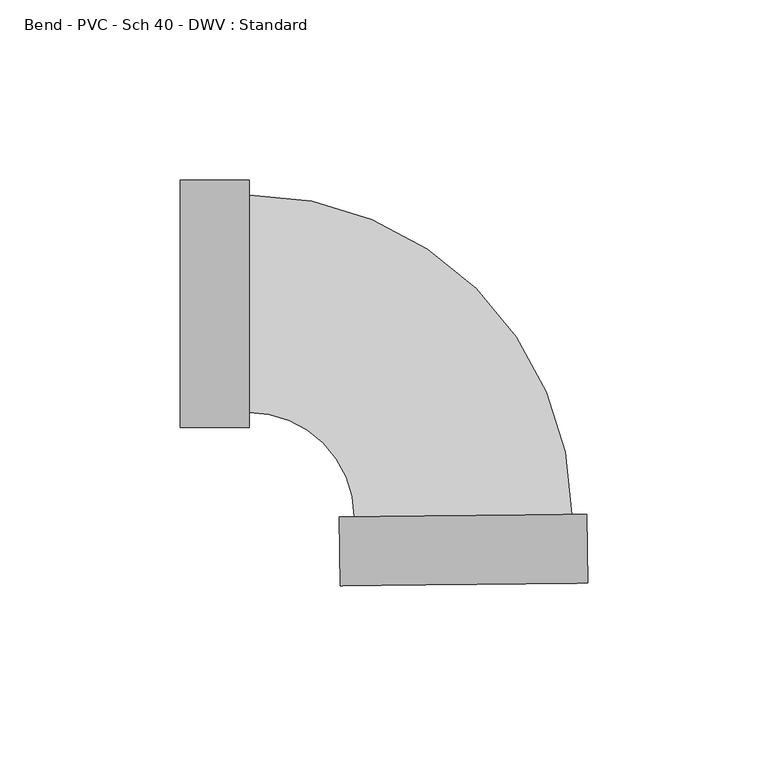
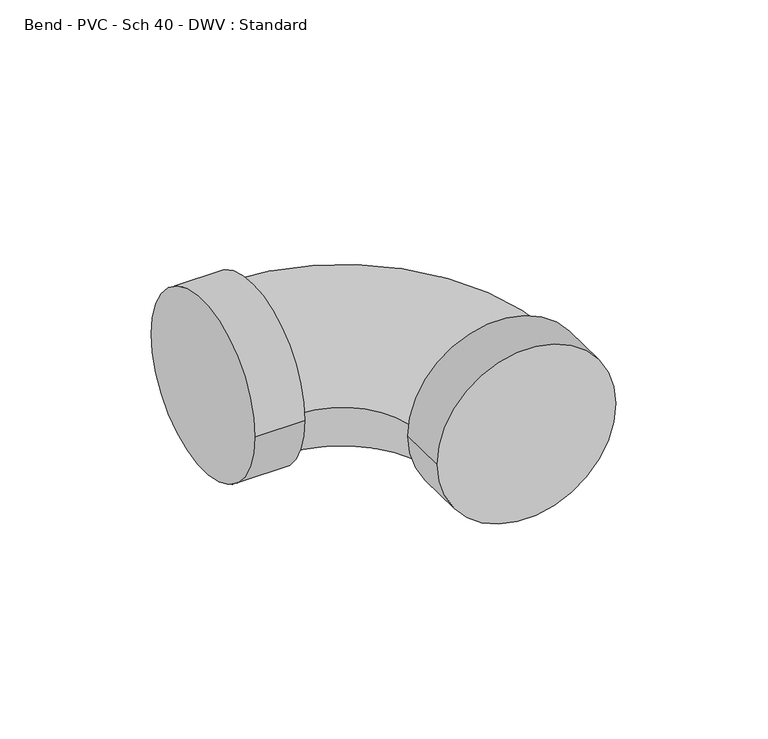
"""IFC4 building model written with IfcOpenShell, lengths in millimetres: pipe fitting geometry, Bend - PVC - Sch 40 - DWV : Standard."""

from ifc_helpers import new_model, si_unit, point, frame, origin, place, context, project, spatial, circle_curve, ellipse_curve, trimmed, source, transform, mapped, element, save
from ifc_brep_helpers import plane_surface, cylinder_surface, revolved_surface, advanced_brep


def bend_pvc_sch_40_dwv_standard_3c7622ae(model_context):
    return source(origin(), model_context, "Body", "AdvancedBrep", [
        advanced_brep(
        [(-77.8002, 34.3154, 0.0), (-77.8002, -34.3154, 0.0), (-58.7502, 34.3154, 0.0), (-58.7502, -34.3154, 0.0), (-58.7502, 30.1625, 0.0), (-58.7502, -30.1625, 0.0), (-29.5489157, -59.0611885, 0.0), (30.7728118, -58.4328372, 0.0), (34.9254865, -58.3895802, 0.0), (-33.7015904, -59.1044455, 0.0), (35.1239132, -77.4385467, 0.0), (-33.5031636, -78.1534121, 0.0)],
        [
            (0, 1, circle_curve(frame((-77.8002, 0.0, 0.0), z_axis=(-1.0, 0.0, 0.0), x_axis=(0.0, -1.0, 0.0)), 34.3154)),
            (1, 0, circle_curve(frame((-77.8002, 0.0, 0.0), z_axis=(-1.0, 0.0, 0.0), x_axis=(0.0, -1.0, 0.0)), 34.3154)),
            (2, 3, circle_curve(frame((-58.7502, 0.0, 0.0), z_axis=(1.0, 0.0, 0.0), x_axis=(0.0, -1.0, 0.0)), 34.3154)),
            (3, 2, circle_curve(frame((-58.7502, 0.0, 0.0), z_axis=(1.0, 0.0, 0.0), x_axis=(0.0, -1.0, 0.0)), 34.3154)),
            (4, 5, circle_curve(frame((-58.7502, 0.0, 0.0), z_axis=(-1.0, 0.0, 0.0), x_axis=(0.0, -1.0, 0.0)), 30.1625)),
            (5, 4, circle_curve(frame((-58.7502, 0.0, 0.0), z_axis=(-1.0, 0.0, 0.0), x_axis=(0.0, -1.0, 0.0)), 30.1625)),
            (1, 3),
            (2, 0),
            (6, 7, circle_curve(frame((0.6119481, -58.7470129, 0.0), z_axis=(-0.010416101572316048, 0.9999457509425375, 0.0), x_axis=(-0.9999457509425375, -0.010416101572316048, 0.0)), 30.1625)),
            (7, 4, circle_curve(frame((-58.7502, -59.3653686, 0.0), z_axis=(0.0, 0.0, 1.0), x_axis=(0.0, 1.0, 0.0)), 89.5278686)),
            (5, 6, circle_curve(frame((-58.7502, -59.3653686, 0.0), z_axis=(0.0, 0.0, -1.0), x_axis=(0.0, 1.0, 0.0)), 29.2028686)),
            (7, 6, circle_curve(frame((0.6119481, -58.7470129, 0.0), z_axis=(-0.010416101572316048, 0.9999457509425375, 0.0), x_axis=(-0.9999457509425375, -0.010416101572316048, 0.0)), 30.1625)),
            (8, 9, circle_curve(frame((0.6119481, -58.7470129, 0.0), z_axis=(-0.010416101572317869, 0.9999457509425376, 0.0), x_axis=(-0.9999457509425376, -0.010416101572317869, 0.0)), 34.3154)),
            (9, 8, circle_curve(frame((0.6119481, -58.7470129, 0.0), z_axis=(-0.010416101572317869, 0.9999457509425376, 0.0), x_axis=(-0.9999457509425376, -0.010416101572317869, 0.0)), 34.3154)),
            (10, 11, circle_curve(frame((0.8103748, -77.7959794, 0.0), z_axis=(0.010416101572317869, -0.9999457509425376, 0.0), x_axis=(-0.9999457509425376, -0.010416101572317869, 0.0)), 34.3154)),
            (11, 10, circle_curve(frame((0.8103748, -77.7959794, 0.0), z_axis=(0.010416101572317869, -0.9999457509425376, 0.0), x_axis=(-0.9999457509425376, -0.010416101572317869, 0.0)), 34.3154)),
            (9, 11),
            (10, 8),
        ],
        [
            plane_surface(frame((-77.8002, 0.0, 0.0), z_axis=(-1.0, 0.0, 0.0), x_axis=(0.0, 0.0, 1.0))),
            plane_surface(frame((-58.7502, 0.0, 0.0), z_axis=(1.0, 0.0, 0.0), x_axis=(0.0, 0.0, 1.0))),
            cylinder_surface(frame((-77.8002, 0.0, 0.0), z_axis=(-1.0, 0.0, 0.0), x_axis=(0.0, -1.0, 0.0)), 34.3154),
            revolved_surface(trimmed(ellipse_curve(frame((-58.7502, 0.0, 0.0), z_axis=(1.0, 0.0, 0.0), x_axis=(0.0, -1.0, 0.0)), 30.1625, 30.1625), [point((-58.7502, 30.1625, 0.0))], [point((-58.7502, -30.1625, 0.0))], True, "CARTESIAN"), (-58.7502, -59.3653686, 0.0), (0.0, 0.0, 1.0)),
            revolved_surface(trimmed(ellipse_curve(frame((-58.7502, 0.0, 0.0), z_axis=(1.0, 0.0, 0.0), x_axis=(0.0, -1.0, 0.0)), 30.1625, 30.1625), [point((-58.7502, -30.1625, 0.0))], [point((-58.7502, 30.1625, 0.0))], True, "CARTESIAN"), (-58.7502, -59.3653686, 0.0), (0.0, 0.0, 1.0)),
            plane_surface(frame((0.6119481, -58.7470129, 0.0), z_axis=(-0.010416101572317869, 0.9999457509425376, 0.0), x_axis=(0.0, 0.0, 1.0))),
            plane_surface(frame((0.8103748, -77.7959794, 0.0), z_axis=(0.010416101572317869, -0.9999457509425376, 0.0), x_axis=(0.0, 0.0, 1.0))),
            cylinder_surface(frame((0.6119481, -58.7470129, 0.0), z_axis=(-0.010416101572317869, 0.9999457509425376, 0.0), x_axis=(-0.9999457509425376, -0.010416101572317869, 0.0)), 34.3154),
        ],
        [
            (0, [[1, 2]]),
            (1, [[3, 4], [5, 6]]),
            (2, [[7, -3, 8, -2]]),
            (2, [[-8, -4, -7, -1]]),
            (3, [[9, 10, -6, 11]]),
            (4, [[-5, -10, 12, -11]]),
            (5, [[13, 14], [-12, -9]]),
            (6, [[15, 16]]),
            (7, [[17, -15, 18, -14]]),
            (7, [[-18, -16, -17, -13]]),
        ],
    ),
    ])


if __name__ == "__main__":
    model = new_model("IFC4")
    model_context = context("Model", 3, world=origin())
    ifc_project = project(units=[si_unit("LENGTHUNIT", "METRE", prefix="MILLI")], contexts=[model_context])
    site = spatial("IfcSite", under=ifc_project)
    building = spatial("IfcBuilding", under=site)
    placement = place(None, origin())
    bend_pvc_sch_40_dwv_standard_shape = bend_pvc_sch_40_dwv_standard_3c7622ae(model_context)
    element("IfcPipeFitting", 1, ObjectType="Bend - PVC - Sch 40 - DWV : Standard", at=placement, inside=building, context=model_context, shape_type="MappedRepresentation", body=[
        mapped(bend_pvc_sch_40_dwv_standard_shape, transform((0.0, 0.0, 0.0), x_axis=(1.0, 0.0, 0.0), y_axis=(0.0, 1.0, 0.0), z_axis=(0.0, 0.0, 1.0))),
    ])
    save(model, "model.ifc")
